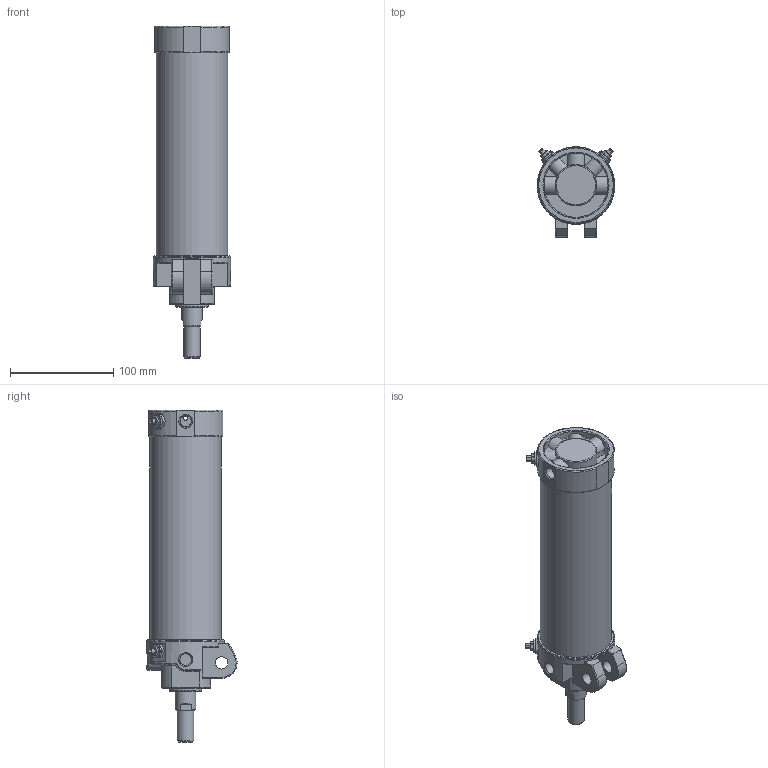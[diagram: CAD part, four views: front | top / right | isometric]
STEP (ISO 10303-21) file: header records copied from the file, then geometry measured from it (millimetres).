
FILE_DESCRIPTION((''),'2;1');
FILE_NAME('I:\3D電子目錄\氣缸\DCK\DCK\DCK-1A-63x150.stp','2008-02-26T15:15:33',('Administrator'),(''),'Autodesk Inventor 11','Autodesk Inventor 11','');
FILE_SCHEMA(('AUTOMOTIVE_DESIGN { 1 0 10303 214 1 1 1 1 }'));
Length unit declared in the file: millimetre
Products named in the file (6): DCK-1A-63; 緩衝針; 緩衝針-1; 緩衝針-201; 緩衝針-3
Assembly tree (8 placements, depth 3):
  DCK-1A-63
    DCK-1A-63
    緩衝針  x4
      緩衝針-1
      緩衝針-201
      緩衝針-3
Bounding box: 75 x 87.29 x 321 mm (x, y, z)
Volume: 361497.7 mm3; surface area: 157279.7 mm2
Topology: 16 solids, 16 shells, 590 faces, 1297 edges, 807 vertices
Faces by surface type: plane 219, cylinder 167, cone 131, torus 42, bspline 31
Full cylindrical faces by diameter (mm): 2 x1, 3 x2, 3.8 x2, 4 x6, 4.6 x4, 5 x8, 5.1 x4, 5.2 x12, 5.5 x4, 7 x1, 7.25 x1, 7.9 x4, 8 x2, 11.3 x3, 12 x2, 12.8 x4, 16 x2, 20 x1, 21 x1, 22 x2, 23 x1, 24.7 x1, 26 x1, 27 x1, 28 x1, 29 x1, 31 x1, 33 x1, 62 x1, 62.7 x1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
Entity records: 12413 total; most frequent: CARTESIAN_POINT 5248, DIRECTION 1447, ORIENTED_EDGE 1314, EDGE_CURVE 657, AXIS2_PLACEMENT_3D 630, EDGE_LOOP 509, VERTEX_POINT 472, FACE_OUTER_BOUND 341
